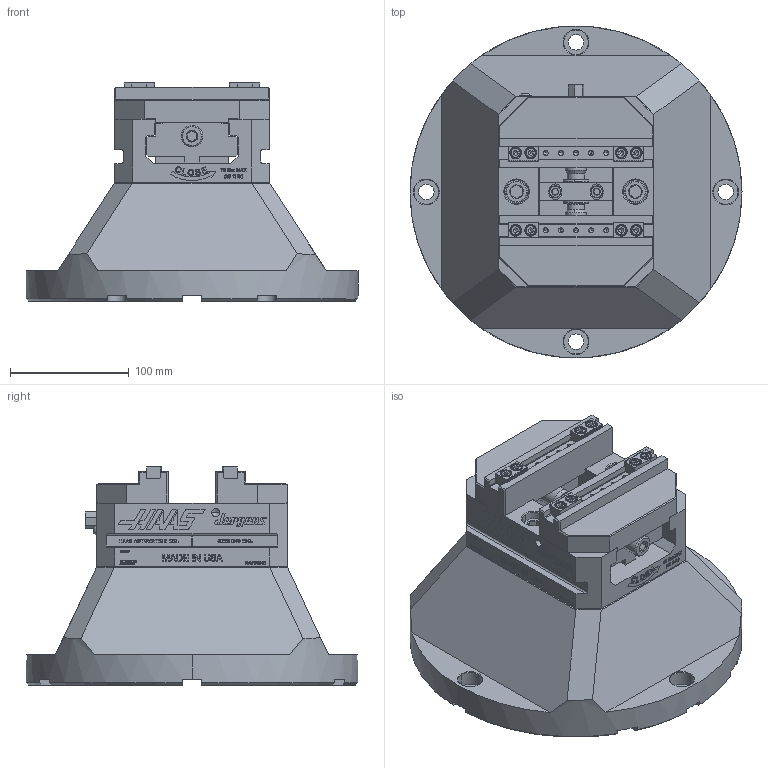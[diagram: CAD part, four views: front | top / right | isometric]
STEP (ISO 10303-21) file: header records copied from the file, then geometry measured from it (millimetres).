
FILE_DESCRIPTION (( 'STEP AP214' ), '1' );
FILE_NAME ('05-0400_05-0500.STEP', '2021-08-24T18:22:13', ( '' ), ( '' ), 'SwSTEP 2.0', 'SolidWorks 2020', '' );
FILE_SCHEMA (( 'AUTOMOTIVE_DESIGN' ));
Length unit declared in the file: inch
Products named in the file (14): 05-0400_1; 771954_771954.STEP_1_1; 771338_91290A336.STEP_1_1; 5JISER1.0.STEP_1_1; 774080.STEP_1_1; 774082.STEP_1_1; 770149.STEP_1_1; 05-0400_05-0500; 774078.STEP_1_1; 774077-HAAS-CST_HAAS LASER.STEP_1_1; 774085.STEP_1_1; 774079.STEP_1_1; 10000175952; 91290A632_Black-Oxide Alloy Steel Socket Head Screw_91290A632
Assembly tree (27 placements, depth 3):
  05-0400_05-0500
    10000175952
    91290A632_Black-Oxide Alloy Steel Socket Head Screw_91290A632  x2
    05-0400_1
      774077-HAAS-CST_HAAS LASER.STEP_1_1
      774079.STEP_1_1
      774078.STEP_1_1
      774080.STEP_1_1
      774082.STEP_1_1  x2
      770149.STEP_1_1
      771954_771954.STEP_1_1  x8
      771338_91290A336.STEP_1_1  x2
      774085.STEP_1_1  x2
      5JISER1.0.STEP_1_1  x4
Bounding box: 279.4 x 279.35 x 183.56 mm (x, y, z)
Volume: 4121266.3 mm3; surface area: 424645.3 mm2
Topology: 26 solids, 30 shells, 5297 faces, 13625 edges, 8663 vertices
Faces by surface type: plane 3529, bspline 808, cylinder 674, cone 257, torus 28, sphere 1
Entity records: 217879 total; most frequent: CARTESIAN_POINT 76786, ORIENTED_EDGE 20496, DIRECTION 15055, EDGE_CURVE 10248, VECTOR 7535, LINE 7535, VERTEX_POINT 6725, EDGE_LOOP 4245
